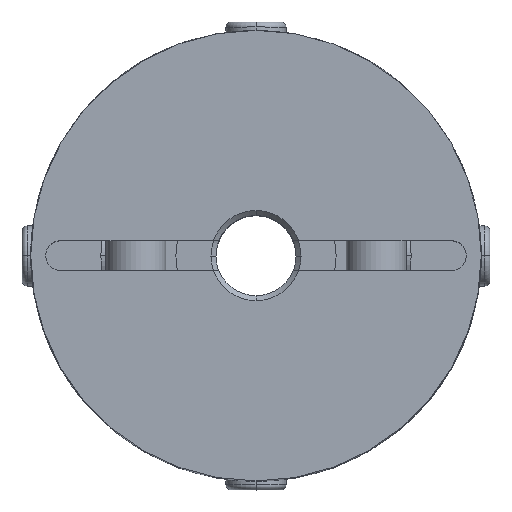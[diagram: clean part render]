
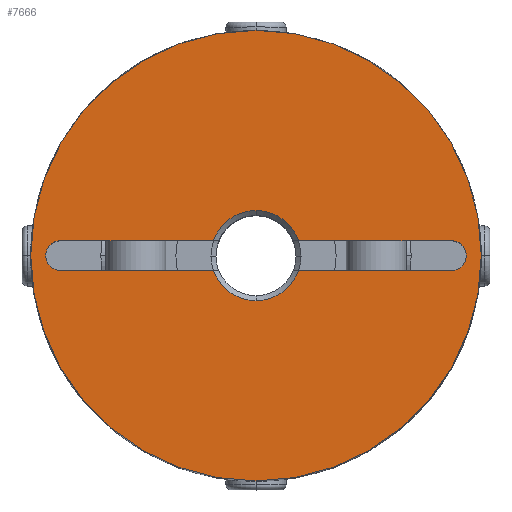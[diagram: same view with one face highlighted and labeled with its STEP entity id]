
A CAD part, top view. The second image highlights one B-rep face of the part: STEP entity #7666.
In plain terms, the highlighted planar face has unit normal (0, 0, 1).
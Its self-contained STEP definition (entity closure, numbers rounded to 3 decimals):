
#979=CARTESIAN_POINT('',(0.,22.5,22.5));
#980=VERTEX_POINT('',#979);
#987=CARTESIAN_POINT('',(0.,-22.5,22.5));
#988=VERTEX_POINT('',#987);
#989=CARTESIAN_POINT('',(0.0,0.0,22.5));
#990=DIRECTION('',(0.0,0.0,-1.0));
#991=DIRECTION('',(0.0,-1.0,0.0));
#992=AXIS2_PLACEMENT_3D('',#989,#990,#991);
#993=CIRCLE('',#992,22.5);
#994=EDGE_CURVE('',#980,#988,#993,.T.);
#1309=CARTESIAN_POINT('',(20.561,1.061,22.5));
#1310=VERTEX_POINT('',#1309);
#1326=CARTESIAN_POINT('',(19.5,-1.5,22.5));
#1327=VERTEX_POINT('',#1326);
#1334=CARTESIAN_POINT('',(19.5,0.,22.5));
#1335=DIRECTION('',(0.0,0.0,1.0));
#1336=DIRECTION('',(0.707,-0.707,0.0));
#1337=AXIS2_PLACEMENT_3D('',#1334,#1335,#1336);
#1338=CIRCLE('',#1337,1.5);
#1339=EDGE_CURVE('',#1327,#1310,#1338,.T.);
#1351=CARTESIAN_POINT('',(-20.561,-1.061,22.5));
#1352=VERTEX_POINT('',#1351);
#1368=CARTESIAN_POINT('',(-19.5,1.5,22.5));
#1369=VERTEX_POINT('',#1368);
#1376=CARTESIAN_POINT('',(-19.5,0.,22.5));
#1377=DIRECTION('',(0.0,0.0,1.0));
#1378=DIRECTION('',(-0.707,0.707,0.0));
#1379=AXIS2_PLACEMENT_3D('',#1376,#1377,#1378);
#1380=CIRCLE('',#1379,1.5);
#1381=EDGE_CURVE('',#1369,#1352,#1380,.T.);
#2105=CARTESIAN_POINT('',(0.,4.5,22.5));
#2106=VERTEX_POINT('',#2105);
#2114=CARTESIAN_POINT('',(4.243,1.5,22.5));
#2115=VERTEX_POINT('',#2114);
#2129=CARTESIAN_POINT('',(0.0,0.0,22.5));
#2130=DIRECTION('',(0.0,0.0,1.0));
#2131=DIRECTION('',(0.0,1.0,0.0));
#2132=AXIS2_PLACEMENT_3D('',#2129,#2130,#2131);
#2133=CIRCLE('',#2132,4.5);
#2134=EDGE_CURVE('',#2115,#2106,#2133,.T.);
#2144=CARTESIAN_POINT('',(0.,-4.5,22.5));
#2145=VERTEX_POINT('',#2144);
#2161=CARTESIAN_POINT('',(-4.243,-1.5,22.5));
#2162=VERTEX_POINT('',#2161);
#2176=CARTESIAN_POINT('',(0.0,0.0,22.5));
#2177=DIRECTION('',(0.0,0.0,1.0));
#2178=DIRECTION('',(0.0,-1.0,0.0));
#2179=AXIS2_PLACEMENT_3D('',#2176,#2177,#2178);
#2180=CIRCLE('',#2179,4.5);
#2181=EDGE_CURVE('',#2162,#2145,#2180,.T.);
#7404=CARTESIAN_POINT('',(19.5,1.5,22.5));
#7405=VERTEX_POINT('',#7404);
#7412=CARTESIAN_POINT('',(4.243,1.5,22.5));
#7413=DIRECTION('',(1.0,0.0,0.0));
#7414=VECTOR('',#7413,15.257);
#7415=LINE('',#7412,#7414);
#7416=EDGE_CURVE('',#2115,#7405,#7415,.T.);
#7551=CARTESIAN_POINT('',(4.243,-1.5,22.5));
#7552=VERTEX_POINT('',#7551);
#7566=CARTESIAN_POINT('',(19.5,-1.5,22.5));
#7567=DIRECTION('',(-1.0,0.0,0.0));
#7568=VECTOR('',#7567,15.257);
#7569=LINE('',#7566,#7568);
#7570=EDGE_CURVE('',#1327,#7552,#7569,.T.);
#7593=CARTESIAN_POINT('',(0.0,0.0,22.5));
#7594=DIRECTION('',(0.0,0.0,1.0));
#7595=DIRECTION('',(0.0,-1.0,0.0));
#7596=AXIS2_PLACEMENT_3D('',#7593,#7594,#7595);
#7597=CIRCLE('',#7596,4.5);
#7598=EDGE_CURVE('',#2145,#7552,#7597,.T.);
#7605=CARTESIAN_POINT('',(0.,-2.045,22.5));
#7606=DIRECTION('',(0.0,0.0,1.0));
#7607=DIRECTION('',(0.0,-1.0,0.0));
#7608=AXIS2_PLACEMENT_3D('',#7605,#7606,#7607);
#7609=PLANE('',#7608);
#7610=CARTESIAN_POINT('',(0.0,0.0,22.5));
#7611=DIRECTION('',(0.0,0.0,-1.0));
#7612=DIRECTION('',(0.0,-1.0,0.0));
#7613=AXIS2_PLACEMENT_3D('',#7610,#7611,#7612);
#7614=CIRCLE('',#7613,22.5);
#7615=EDGE_CURVE('',#988,#980,#7614,.T.);
#7616=ORIENTED_EDGE('',*,*,#7615,.F.);
#7617=ORIENTED_EDGE('',*,*,#994,.F.);
#7618=EDGE_LOOP('',(#7616,#7617));
#7619=FACE_OUTER_BOUND('',#7618,.T.);
#7620=ORIENTED_EDGE('',*,*,#2181,.F.);
#7621=CARTESIAN_POINT('',(-19.5,-1.5,22.5));
#7622=VERTEX_POINT('',#7621);
#7623=CARTESIAN_POINT('',(-4.243,-1.5,22.5));
#7624=DIRECTION('',(-1.0,0.0,0.0));
#7625=VECTOR('',#7624,15.257);
#7626=LINE('',#7623,#7625);
#7627=EDGE_CURVE('',#2162,#7622,#7626,.T.);
#7628=ORIENTED_EDGE('',*,*,#7627,.T.);
#7629=CARTESIAN_POINT('',(-19.5,0.,22.5));
#7630=DIRECTION('',(0.0,0.0,1.0));
#7631=DIRECTION('',(-0.707,0.707,0.0));
#7632=AXIS2_PLACEMENT_3D('',#7629,#7630,#7631);
#7633=CIRCLE('',#7632,1.5);
#7634=EDGE_CURVE('',#1352,#7622,#7633,.T.);
#7635=ORIENTED_EDGE('',*,*,#7634,.F.);
#7636=ORIENTED_EDGE('',*,*,#1381,.F.);
#7637=CARTESIAN_POINT('',(-4.243,1.5,22.5));
#7638=VERTEX_POINT('',#7637);
#7639=CARTESIAN_POINT('',(-19.5,1.5,22.5));
#7640=DIRECTION('',(1.0,0.0,0.0));
#7641=VECTOR('',#7640,15.257);
#7642=LINE('',#7639,#7641);
#7643=EDGE_CURVE('',#1369,#7638,#7642,.T.);
#7644=ORIENTED_EDGE('',*,*,#7643,.T.);
#7645=CARTESIAN_POINT('',(0.0,0.0,22.5));
#7646=DIRECTION('',(0.0,0.0,1.0));
#7647=DIRECTION('',(0.0,1.0,0.0));
#7648=AXIS2_PLACEMENT_3D('',#7645,#7646,#7647);
#7649=CIRCLE('',#7648,4.5);
#7650=EDGE_CURVE('',#2106,#7638,#7649,.T.);
#7651=ORIENTED_EDGE('',*,*,#7650,.F.);
#7652=ORIENTED_EDGE('',*,*,#2134,.F.);
#7653=ORIENTED_EDGE('',*,*,#7416,.T.);
#7654=CARTESIAN_POINT('',(19.5,0.,22.5));
#7655=DIRECTION('',(0.0,0.0,1.0));
#7656=DIRECTION('',(0.707,-0.707,0.0));
#7657=AXIS2_PLACEMENT_3D('',#7654,#7655,#7656);
#7658=CIRCLE('',#7657,1.5);
#7659=EDGE_CURVE('',#1310,#7405,#7658,.T.);
#7660=ORIENTED_EDGE('',*,*,#7659,.F.);
#7661=ORIENTED_EDGE('',*,*,#1339,.F.);
#7662=ORIENTED_EDGE('',*,*,#7570,.T.);
#7663=ORIENTED_EDGE('',*,*,#7598,.F.);
#7664=EDGE_LOOP('',(#7620,#7628,#7635,#7636,#7644,#7651,#7652,#7653,#7660,#7661,#7662,#7663));
#7665=FACE_BOUND('',#7664,.T.);
#7666=ADVANCED_FACE('',(#7619,#7665),#7609,.T.);
